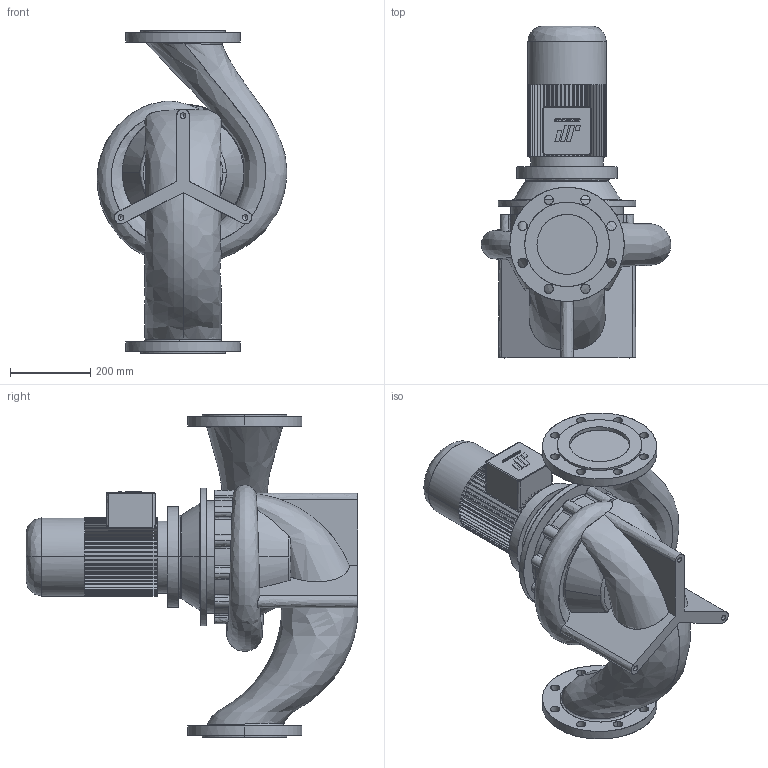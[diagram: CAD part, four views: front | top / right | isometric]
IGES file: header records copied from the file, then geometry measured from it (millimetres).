
Start section: CombiLine
Global section: file name: CLB_125A-250_IEC100L_ND10.igs; native system:  By UGS Corp.; preprocessor: XPlus GENERIC/IGES 3.0; author: Stageplaats; organization: Johnson Pump Water B.V.; date: 20070718.095447; units: millimetre
Bounding box: 473.11 x 827.5 x 805 mm (x, y, z)
Surface area: 1850069.9 mm2 (no closed solid volume)
Topology: 0 solids, 0 shells, 709 faces, 4114 edges, 4108 vertices
Faces by surface type: bspline 709
